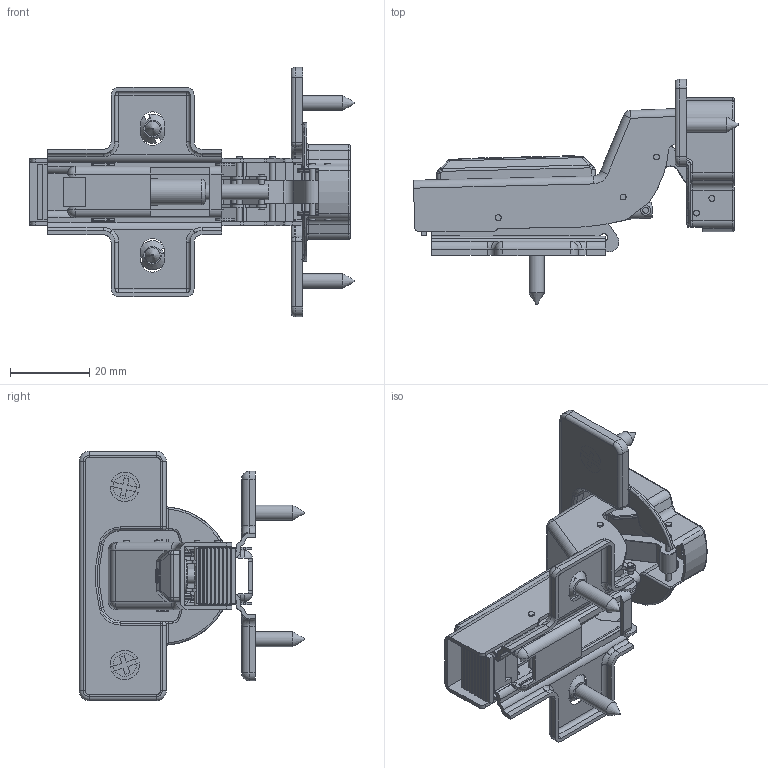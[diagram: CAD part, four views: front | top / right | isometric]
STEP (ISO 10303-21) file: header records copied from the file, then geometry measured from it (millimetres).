
FILE_DESCRIPTION(/* description */ (''),/* implementation_level */ '2;1');
FILE_NAME(/* name */ 'W:\R&D\pub\Katalog techniczny\bryły 3D\ZM-ECHC07BEO.stp',/* time_stamp */ '2016-09-13T13:19:53+02:00',/* author */ ('tomaszw'),/* organization */ (''),/* preprocessor_version */ 'ST-DEVELOPER v16.1',/* originating_system */ 'Autodesk Inventor 2016',/* authorisation */ '');
FILE_SCHEMA (('AUTOMOTIVE_DESIGN { 1 0 10303 214 3 1 1 }'));
Length unit declared in the file: millimetre
Products named in the file (17): ZM-ECHC0-P-H0; ZM-ECHC07; ZM-ECHC0_2; ZM-ECHC0_1; ZM-ECHC0_4-FI35_45_w; ZM-ECHC0_3; ZM-ECHC0_Pin2; ZM-ECHC0_Pin1; Wkret4x6; ZM-ECHC0_5; ZM-ECHC0_6; ZM-ECHC0_7; ZM-ECHC0_8; ZM-ECHC0-NP; ZM-ECHC0-NR; Wkret4x16; ZM-ECHC07(8)(9)ZEO(BEO)(48-ZE)(2ZE)(ZED)
Assembly tree (23 placements, depth 2):
  ZM-ECHC07(8)(9)ZEO(BEO)(48-ZE)(2ZE)(ZED)
    ZM-ECHC0-P-H0
    ZM-ECHC07
    ZM-ECHC0_2
    ZM-ECHC0_1
    ZM-ECHC0_4-FI35_45_w
    ZM-ECHC0_3
    ZM-ECHC0_Pin2  x4
    ZM-ECHC0_Pin1  x2
    Wkret4x6
    ZM-ECHC0_5
    ZM-ECHC0_6
    ZM-ECHC0_7
    ZM-ECHC0_8
    ZM-ECHC0-NP
    ZM-ECHC0-NR
    Wkret4x16  x4
Bounding box: 82.13 x 57 x 63 mm (x, y, z)
Volume: 13245 mm3; surface area: 30069.9 mm2
Topology: 23 solids, 23 shells, 1467 faces, 3663 edges, 2257 vertices
Faces by surface type: plane 612, cylinder 478, bspline 181, torus 114, sphere 54, cone 28
Full cylindrical faces by diameter (mm): 1.5 x32, 2 x2, 3.8 x4, 4 x2, 5 x1, 6 x1, 6.5 x2, 7 x1, 8 x1
Entity records: 46682 total; most frequent: CARTESIAN_POINT 12146, ORIENTED_EDGE 6884, DIRECTION 6702, EDGE_CURVE 3442, AXIS2_PLACEMENT_3D 2362, VERTEX_POINT 2148, LINE 1978, VECTOR 1978
